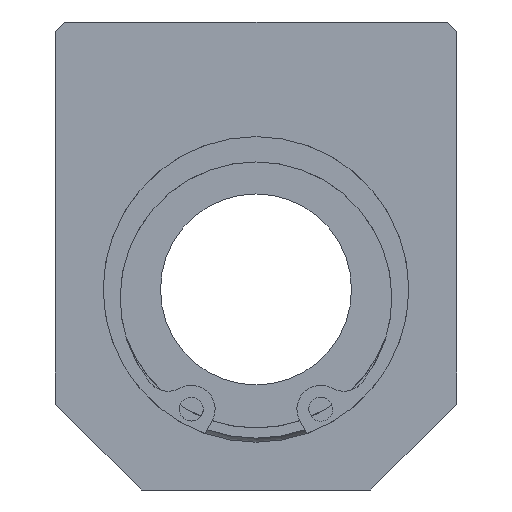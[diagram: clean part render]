
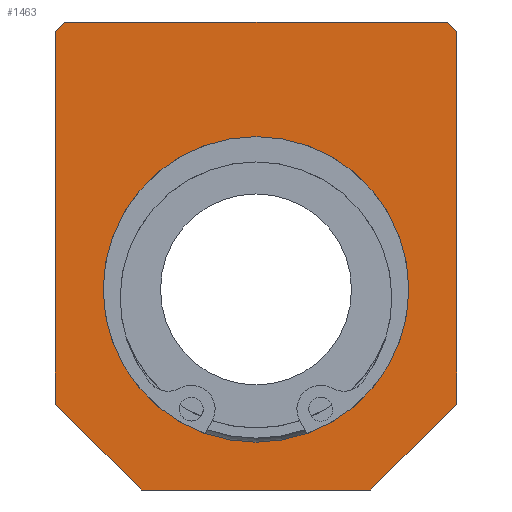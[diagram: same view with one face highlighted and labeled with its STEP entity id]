
A CAD part, left-side view. The second image highlights one B-rep face of the part: STEP entity #1463.
In plain terms, the highlighted planar face has unit normal (-1, 0, 0).
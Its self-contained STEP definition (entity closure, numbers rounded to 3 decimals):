
#1365=CARTESIAN_POINT('',(0.0,-20.,28.));
#1366=VERTEX_POINT('',#1365);
#1373=CARTESIAN_POINT('',(0.0,-21.,27.));
#1374=VERTEX_POINT('',#1373);
#1375=CARTESIAN_POINT('',(0.0,-20.,28.));
#1376=DIRECTION('',(0.0,-0.707,-0.707));
#1377=VECTOR('',#1376,1.414);
#1378=LINE('',#1375,#1377);
#1379=EDGE_CURVE('',#1366,#1374,#1378,.T.);
#1390=CARTESIAN_POINT('',(0.0,0.0,3.5));
#1391=DIRECTION('',(1.0,0.0,0.0));
#1392=DIRECTION('',(0.0,0.0,-1.0));
#1393=AXIS2_PLACEMENT_3D('',#1390,#1391,#1392);
#1394=PLANE('',#1393);
#1395=ORIENTED_EDGE('',*,*,#1379,.F.);
#1396=CARTESIAN_POINT('',(0.0,20.0,28.));
#1397=VERTEX_POINT('',#1396);
#1398=CARTESIAN_POINT('',(0.0,-20.,28.));
#1399=DIRECTION('',(0.0,1.0,0.0));
#1400=VECTOR('',#1399,40.0);
#1401=LINE('',#1398,#1400);
#1402=EDGE_CURVE('',#1366,#1397,#1401,.T.);
#1403=ORIENTED_EDGE('',*,*,#1402,.T.);
#1404=CARTESIAN_POINT('',(0.0,21.,27.));
#1405=VERTEX_POINT('',#1404);
#1406=CARTESIAN_POINT('',(0.0,21.,27.));
#1407=DIRECTION('',(0.0,-0.707,0.707));
#1408=VECTOR('',#1407,1.414);
#1409=LINE('',#1406,#1408);
#1410=EDGE_CURVE('',#1405,#1397,#1409,.T.);
#1411=ORIENTED_EDGE('',*,*,#1410,.F.);
#1412=CARTESIAN_POINT('',(0.0,21.,-12.));
#1413=VERTEX_POINT('',#1412);
#1414=CARTESIAN_POINT('',(0.0,21.,27.));
#1415=DIRECTION('',(0.0,0.0,-1.0));
#1416=VECTOR('',#1415,39.);
#1417=LINE('',#1414,#1416);
#1418=EDGE_CURVE('',#1405,#1413,#1417,.T.);
#1419=ORIENTED_EDGE('',*,*,#1418,.T.);
#1420=CARTESIAN_POINT('',(0.0,12.,-21.));
#1421=VERTEX_POINT('',#1420);
#1422=CARTESIAN_POINT('',(0.0,12.,-21.));
#1423=DIRECTION('',(0.0,0.707,0.707));
#1424=VECTOR('',#1423,12.728);
#1425=LINE('',#1422,#1424);
#1426=EDGE_CURVE('',#1421,#1413,#1425,.T.);
#1427=ORIENTED_EDGE('',*,*,#1426,.F.);
#1428=CARTESIAN_POINT('',(0.0,-12.,-21.));
#1429=VERTEX_POINT('',#1428);
#1430=CARTESIAN_POINT('',(0.0,12.,-21.));
#1431=DIRECTION('',(0.0,-1.0,0.0));
#1432=VECTOR('',#1431,24.);
#1433=LINE('',#1430,#1432);
#1434=EDGE_CURVE('',#1421,#1429,#1433,.T.);
#1435=ORIENTED_EDGE('',*,*,#1434,.T.);
#1436=CARTESIAN_POINT('',(0.0,-21.,-12.));
#1437=VERTEX_POINT('',#1436);
#1438=CARTESIAN_POINT('',(0.0,-21.,-12.));
#1439=DIRECTION('',(0.0,0.707,-0.707));
#1440=VECTOR('',#1439,12.728);
#1441=LINE('',#1438,#1440);
#1442=EDGE_CURVE('',#1437,#1429,#1441,.T.);
#1443=ORIENTED_EDGE('',*,*,#1442,.F.);
#1444=CARTESIAN_POINT('',(0.0,-21.,-12.));
#1445=DIRECTION('',(0.0,0.0,1.0));
#1446=VECTOR('',#1445,39.);
#1447=LINE('',#1444,#1446);
#1448=EDGE_CURVE('',#1437,#1374,#1447,.T.);
#1449=ORIENTED_EDGE('',*,*,#1448,.T.);
#1450=EDGE_LOOP('',(#1395,#1403,#1411,#1419,#1427,#1435,#1443,#1449));
#1451=FACE_OUTER_BOUND('',#1450,.T.);
#1452=CARTESIAN_POINT('',(0.0,16.0,0.));
#1453=VERTEX_POINT('',#1452);
#1454=CARTESIAN_POINT('',(0.0,0.0,0.0));
#1455=DIRECTION('',(1.0,0.0,0.0));
#1456=DIRECTION('',(0.0,-1.0,0.0));
#1457=AXIS2_PLACEMENT_3D('',#1454,#1455,#1456);
#1458=CIRCLE('',#1457,16.0);
#1459=EDGE_CURVE('',#1453,#1453,#1458,.T.);
#1460=ORIENTED_EDGE('',*,*,#1459,.T.);
#1461=EDGE_LOOP('',(#1460));
#1462=FACE_BOUND('',#1461,.T.);
#1463=ADVANCED_FACE('',(#1451,#1462),#1394,.F.);
